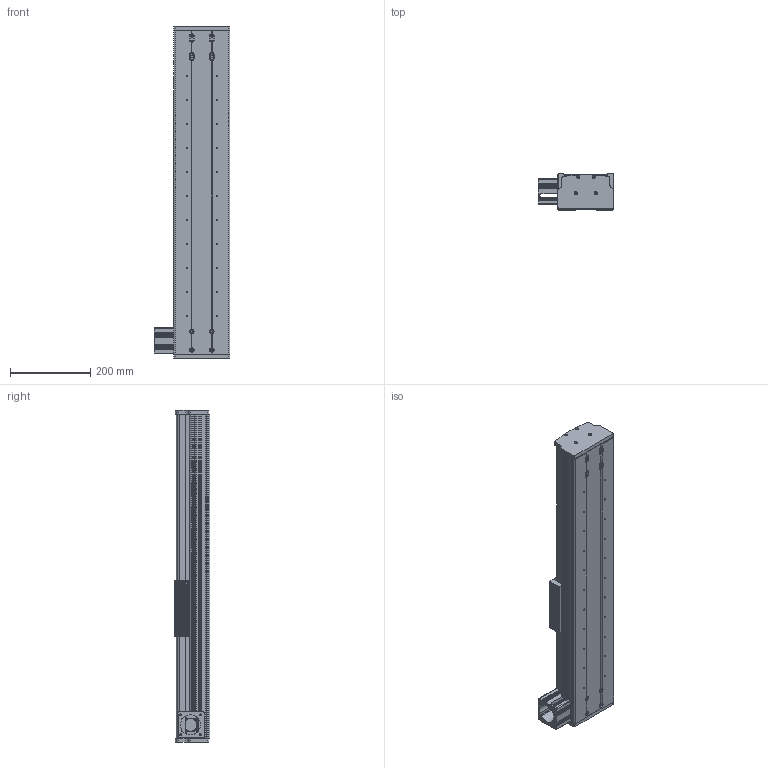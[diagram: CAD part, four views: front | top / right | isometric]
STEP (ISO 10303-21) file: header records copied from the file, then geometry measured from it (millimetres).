
FILE_DESCRIPTION (( 'STEP AP203' ), '1' );
FILE_NAME ('CF140B肮祭湍500俴最.STEP', '2020-06-13T01:59:07', ( 'Micorosoft' ), ( 'Micorosoft' ), 'SwSTEP 2.0', 'SolidWorks 2016', '' );
FILE_SCHEMA (( 'CONFIG_CONTROL_DESIGN' ));
Length unit declared in the file: millimetre
Products named in the file (11): 6060-3232源臏奪-萇儂釱; 15賑輸; CF140B肮祭湍500俴最; 15絳寢; CF140蹟譫釱; CF140賑雄啣; CF140裔啣; CF140萇儂啣; 6060-3232源臏奪-翋雄釱; 6060-3232源臏奪-植雄釱; 菁釱
Assembly tree (15 placements, depth 2):
  CF140B肮祭湍500俴最
    菁釱
    15賑輸  x4
    15絳寢  x2
    CF140蹟譫釱
    CF140賑雄啣
    CF140裔啣
    CF140萇儂啣  x2
    6060-3232源臏奪-翋雄釱
    6060-3232源臏奪-植雄釱
    6060-3232源臏奪-萇儂釱
Bounding box: 189.55 x 89.5 x 830 mm (x, y, z)
Volume: 4026055.4 mm3; surface area: 1401788.1 mm2
Topology: 15 solids, 15 shells, 1688 faces, 4788 edges, 3130 vertices
Faces by surface type: cylinder 860, plane 760, cone 68
Entity records: 52285 total; most frequent: CARTESIAN_POINT 9850, DIRECTION 8823, ORIENTED_EDGE 8630, EDGE_CURVE 4315, AXIS2_PLACEMENT_3D 3110, VERTEX_POINT 2864, VECTOR 2603, LINE 2603
